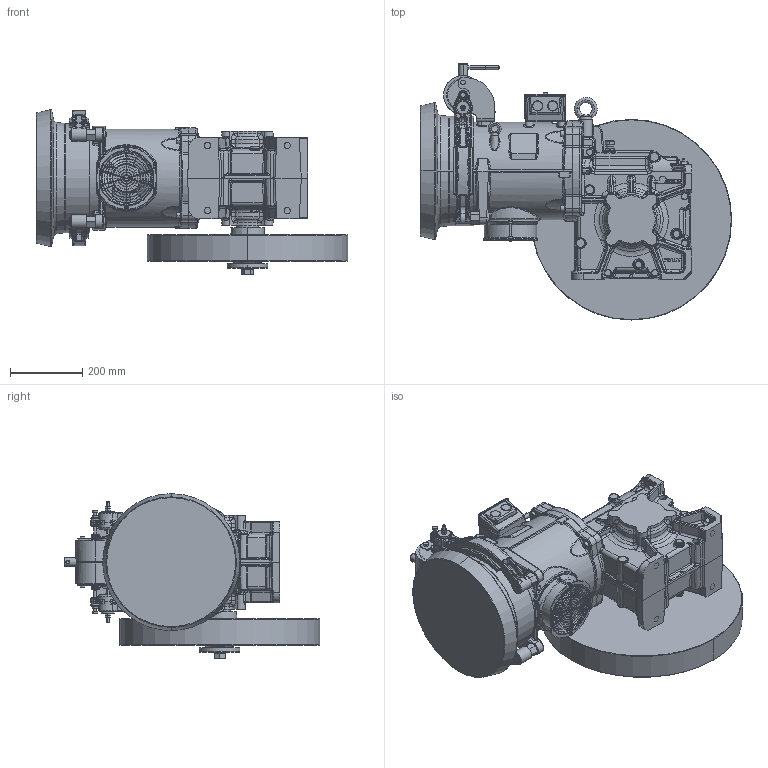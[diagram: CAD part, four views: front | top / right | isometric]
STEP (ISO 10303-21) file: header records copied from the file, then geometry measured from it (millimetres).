
FILE_DESCRIPTION((''),'2;1');
FILE_NAME('00299992_SW0001','2022-09-16T',('pietrobellog'),('Sicor spa'),'CREO PARAMETRIC BY PTC INC, 2017170','CREO PARAMETRIC BY PTC INC, 2017170','');
FILE_SCHEMA(('CONFIG_CONTROL_DESIGN'));
Products named in the file (1): 00299992_SW0001
Bounding box: 860 x 707 x 454.79 mm (x, y, z)
Surface area: 2519752.6 mm2 (no closed solid volume)
Topology: 0 solids, 246 shells, 3638 faces, 10330 edges, 6654 vertices
Faces by surface type: bspline 1186, plane 878, cylinder 860, cone 353, torus 291, sphere 63, extrusion 7
Entity records: 217813 total; most frequent: CARTESIAN_POINT 136121, ORIENTED_EDGE 17593, DIRECTION 14537, EDGE_CURVE 10316, VERTEX_POINT 6654, AXIS2_PLACEMENT_3D 5813, B_SPLINE_CURVE_WITH_KNOTS 4051, EDGE_LOOP 3638
